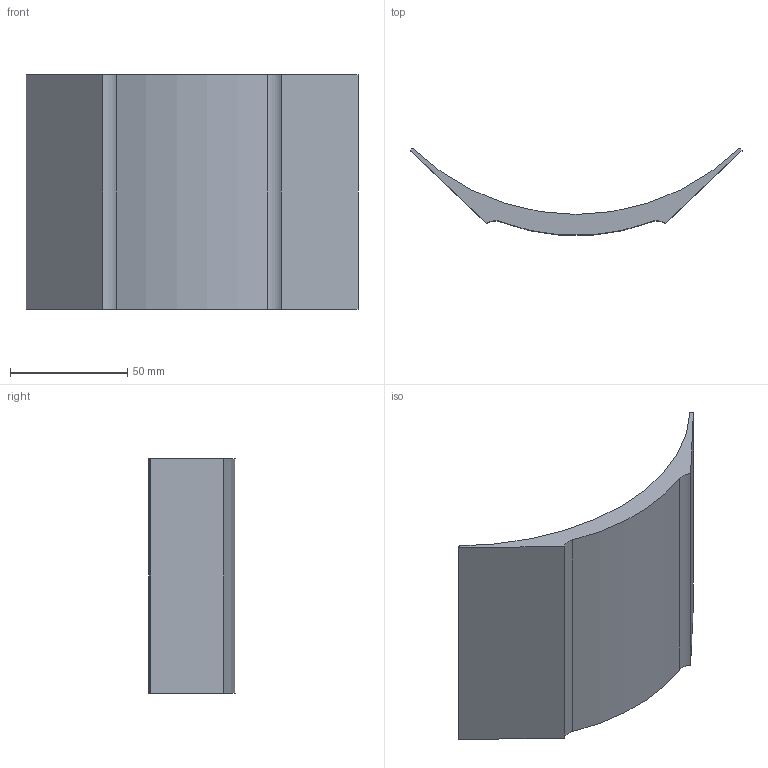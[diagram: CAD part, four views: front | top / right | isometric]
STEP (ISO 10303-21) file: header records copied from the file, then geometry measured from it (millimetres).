
FILE_DESCRIPTION (( 'STEP AP203' ), '1' );
FILE_NAME ('NOMASTYLPURE_NE4_00.step', '2017-10-18T04:59:28', ( '' ), ( '' ), 'SwSTEP 2.0', 'SolidWorks 2017', '' );
FILE_SCHEMA (( 'CONFIG_CONTROL_DESIGN' ));
Length unit declared in the file: millimetre
Products named in the file (1): NOMASTYLPURE_NE4_00
Bounding box: 141.42 x 36.8 x 100 mm (x, y, z)
Volume: 101014.3 mm3; surface area: 34504.2 mm2
Topology: 1 solids, 1 shells, 12 faces, 30 edges, 20 vertices
Faces by surface type: plane 6, cylinder 6
Entity records: 443 total; most frequent: DIRECTION 68, CARTESIAN_POINT 63, ORIENTED_EDGE 60, EDGE_CURVE 30, AXIS2_PLACEMENT_3D 25, VERTEX_POINT 20, LINE 18, VECTOR 18
